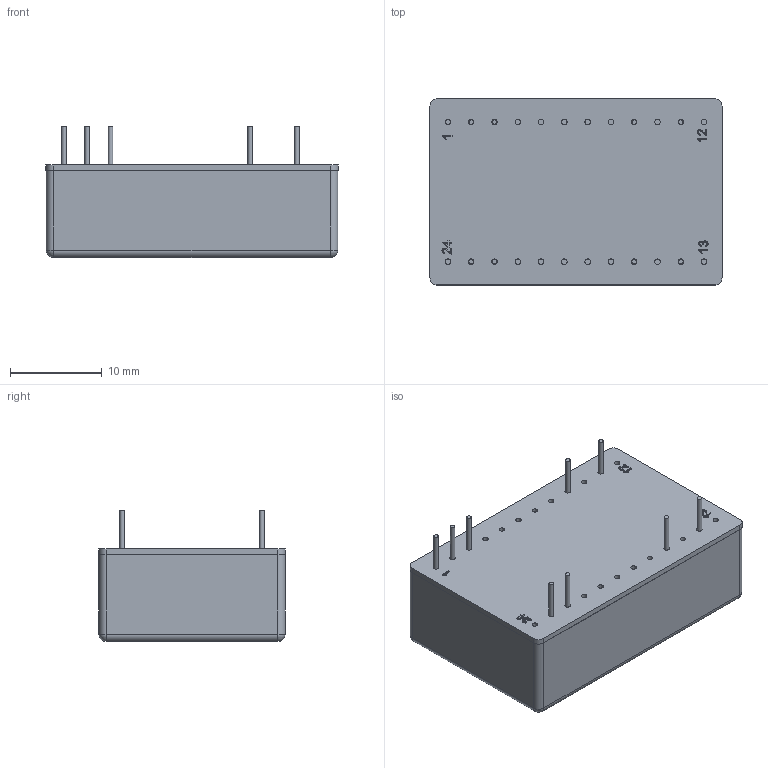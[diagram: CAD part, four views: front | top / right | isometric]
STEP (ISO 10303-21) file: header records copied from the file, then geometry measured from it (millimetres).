
FILE_DESCRIPTION(/* description */ (''),/* implementation_level */ '2;1');
FILE_NAME(/* name */ 'C:\Users\CALLIOPE\Documents\Inventor\MIW06_MIWI06\3D\X2\5C3A5BF8591689C0\X0\\型錄用-STEP檔\MIW10+MIWI10.stp',/* time_stamp */ '2015-03-13T08:42:23+08:00',/* author */ ('CALLIOPE'),/* organization */ (''),/* preprocessor_version */ 'ST-DEVELOPER v15.6',/* originating_system */ 'Autodesk Inventor 2015',/* authorisation */ '');
FILE_SCHEMA (('AUTOMOTIVE_DESIGN { 1 0 10303 214 3 1 1 }'));
Length unit declared in the file: millimetre
Products named in the file (3): MIWI10 CASE; MIWI10 BASE; MIW10+MIWI10
Assembly tree (2 placements, depth 2):
  MIW10+MIWI10
    MIWI10 CASE
    MIWI10 BASE
Bounding box: 31.85 x 20.3 x 14.3 mm (x, y, z)
Volume: 4843.3 mm3; surface area: 4639.8 mm2
Topology: 2 solids, 2 shells, 190 faces, 514 edges, 344 vertices
Faces by surface type: plane 94, cylinder 57, bspline 35, sphere 4
Full cylindrical faces by diameter (mm): 0.5 x9, 0.6 x24
Entity records: 5919 total; most frequent: CARTESIAN_POINT 1404, ORIENTED_EDGE 906, DIRECTION 821, EDGE_CURVE 453, VERTEX_POINT 320, EDGE_LOOP 291, AXIS2_PLACEMENT_3D 278, LINE 265
